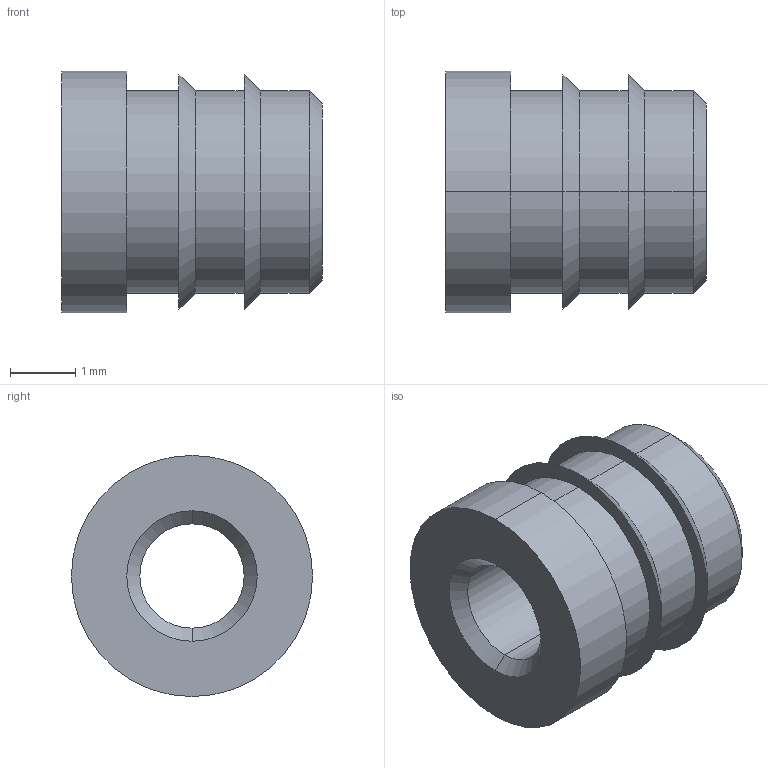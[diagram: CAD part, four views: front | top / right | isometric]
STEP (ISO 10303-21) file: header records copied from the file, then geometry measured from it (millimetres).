
FILE_DESCRIPTION (( 'STEP AP203' ), '1' );
FILE_NAME ('FSUK-PU-M02-S.STEP', '2021-04-15T09:35:34', ( '' ), ( '' ), 'SwSTEP 2.0', 'SolidWorks 2021', '' );
FILE_SCHEMA (( 'CONFIG_CONTROL_DESIGN' ));
Length unit declared in the file: millimetre
Products named in the file (1): FSUK-PU-M02-S
Bounding box: 4 x 3.7 x 3.7 mm (x, y, z)
Volume: 25.6 mm3; surface area: 84 mm2
Topology: 1 solids, 1 shells, 25 faces, 50 edges, 30 vertices
Faces by surface type: cone 10, cylinder 10, plane 5
Entity records: 735 total; most frequent: DIRECTION 132, CARTESIAN_POINT 106, ORIENTED_EDGE 100, AXIS2_PLACEMENT_3D 56, EDGE_CURVE 50, VERTEX_POINT 30, CIRCLE 30, EDGE_LOOP 30
